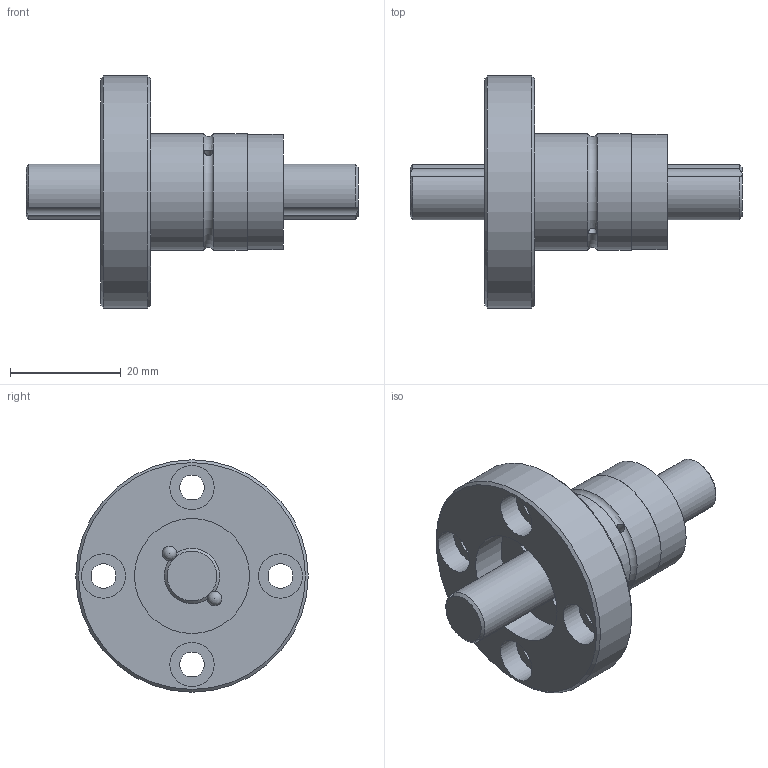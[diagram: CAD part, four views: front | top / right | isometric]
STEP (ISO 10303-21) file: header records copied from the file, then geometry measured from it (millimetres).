
FILE_DESCRIPTION(/* description */ ('Unknown'),/* implementation_level */ '2;1');
FILE_NAME(/* name */ 'TLF010-D-L60',/* time_stamp */ '2024-12-16T13:42:39+08:00',/* author */ ('Unknown'),/* organization */ ('Unknown'),/* preprocessor_version */ 'ST-DEVELOPER v18.102',/* originating_system */ 'Solid Edge',/* authorisation */ 'Unknown');
FILE_SCHEMA (('AUTOMOTIVE_DESIGN {1 0 10303 214 3 1 1}'));
Length unit declared in the file: millimetre
Products named in the file (3): TLF010-D-L60; TLF010-D-xxxx; TLF010
Assembly tree (2 placements, depth 2):
  TLF010-D-L60
    TLF010-D-xxxx
    TLF010
Bounding box: 60 x 42 x 42 mm (x, y, z)
Volume: 19695.9 mm3; surface area: 9643.7 mm2
Topology: 2 solids, 2 shells, 51 faces, 146 edges, 98 vertices
Faces by surface type: cylinder 23, plane 11, sphere 10, cone 6, torus 1
Full cylindrical faces by diameter (mm): 1.5 x2, 4.5 x4, 8 x4, 20.8 x2, 21 x2, 42 x1
Entity records: 1829 total; most frequent: CARTESIAN_POINT 656, DIRECTION 228, ORIENTED_EDGE 172, EDGE_LOOP 116, FACE_BOUND 116, AXIS2_PLACEMENT_3D 110, EDGE_CURVE 86, VERTEX_POINT 74
